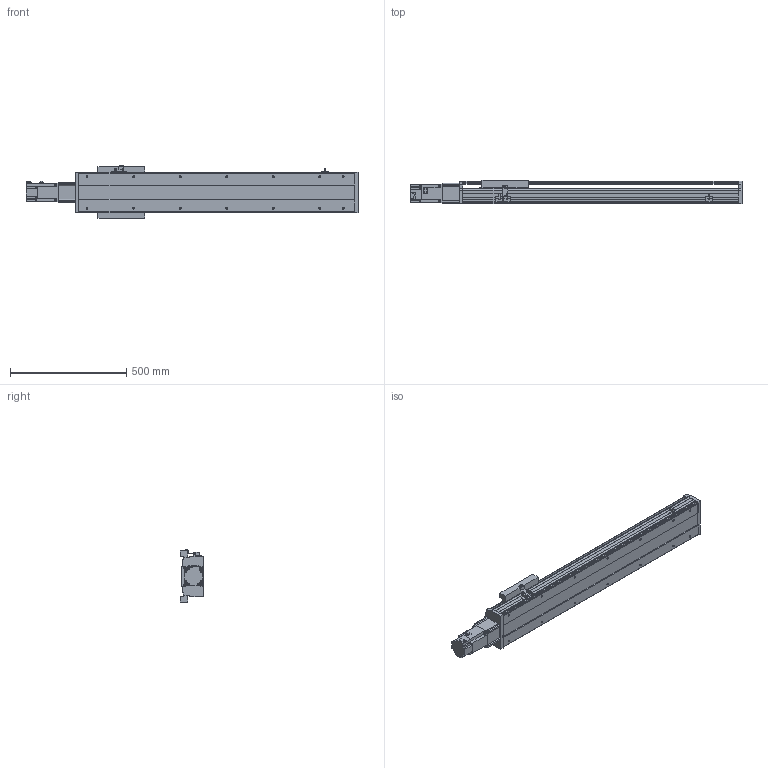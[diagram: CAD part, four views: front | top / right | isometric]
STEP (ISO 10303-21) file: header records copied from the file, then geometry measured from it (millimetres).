
FILE_DESCRIPTION(/* description */ ('STEP AP214'),/* implementation_level */ '2;1');
FILE_NAME(/* name */ 'PSS200-L10-S850-BC-T75-C1-N(0)',/* time_stamp */ '2022-06-06T04:36:49+02:00',/* author */ ('License CC BY-ND 4.0'),/* organization */ ('CADENAS'),/* preprocessor_version */ 'ST-DEVELOPER v18.102',/* originating_system */ 'PARTsolutions',/* authorisation */ ' ');
FILE_SCHEMA (('AUTOMOTIVE_DESIGN {1 0 10303 214 3 1 1}'));
Length unit declared in the file: millimetre
Products named in the file (8): PSS200-L10-S850-BC-T75-C1-N(0); PSS200-S850-BC-N_S; T75-p1; PSS200BC-N_h; PSS200-N_sensor; PSS200-BC-C1-N_sl; PSS200-N_Q; PSS200-S850-BC-C1-N_body
Assembly tree (9 placements, depth 2):
  PSS200-L10-S850-BC-T75-C1-N(0)
    PSS200-S850-BC-N_S
    T75-p1
    PSS200BC-N_h
    PSS200-N_sensor  x3
    PSS200-BC-C1-N_sl
    PSS200-N_Q
    PSS200-S850-BC-C1-N_body
Bounding box: 1426.3 x 101.5 x 223.86 mm (x, y, z)
Volume: 7930797.3 mm3; surface area: 1996587.7 mm2
Topology: 9 solids, 9 shells, 581 faces, 1555 edges, 1032 vertices
Faces by surface type: plane 439, cylinder 120, cone 22
Full cylindrical faces by diameter (mm): 4 x2, 4.5 x4, 6 x11, 6.647 x18, 8 x8, 10 x6, 25 x1, 67 x1, 70 x1
Entity records: 16166 total; most frequent: CARTESIAN_POINT 2796, DIRECTION 2661, ORIENTED_EDGE 2642, EDGE_CURVE 1321, LINE 1051, VECTOR 1051, VERTEX_POINT 920, AXIS2_PLACEMENT_3D 805
